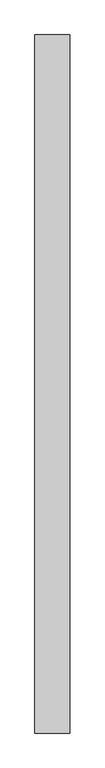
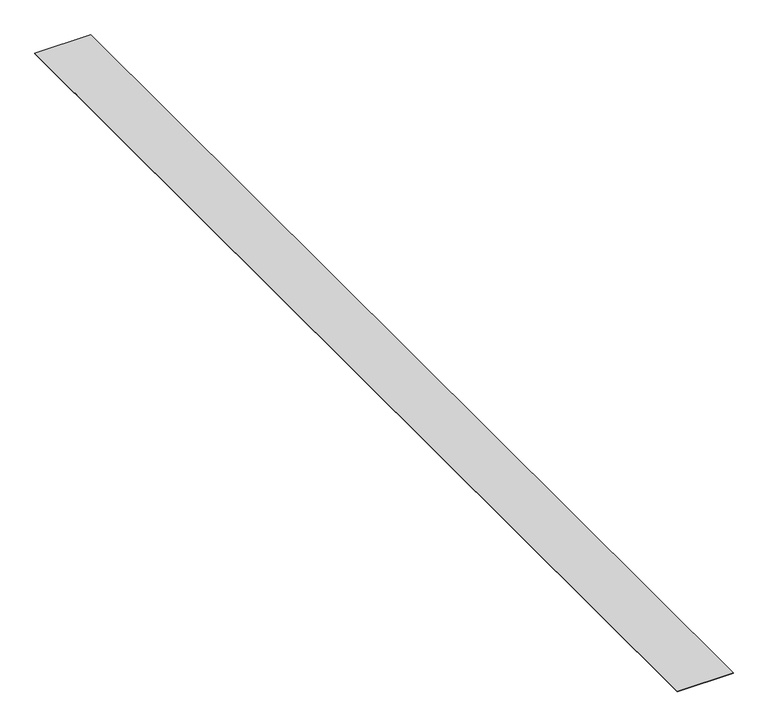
"""IFC4 building model written with IfcOpenShell, lengths in millimetres: proxy geometry, AQUAPANEL Tape (10 cm) : AQUAPANEL Tape (10 cm)."""

from ifc_helpers import new_model, si_unit, origin, origin_with_axes, place, context, project, spatial, polyline, outline, extrude, source, transform, mapped, element, save


def generic_models_bffc2f37(model_context):
    return source(origin(), model_context, "Body", "SweptSolid", [
        extrude(outline(polyline([(17111.4421741, 18350.9190852), (17111.4421741, 16350.9190852), (17011.4421741, 16350.9190852), (17011.4421741, 18350.9190852), (17111.4421741, 18350.9190852)])), origin_with_axes(), (0.0, 0.0, 1.0), 1.0),
    ])


if __name__ == "__main__":
    model = new_model("IFC4")
    model_context = context("Model", 3, world=origin())
    ifc_project = project(units=[si_unit("LENGTHUNIT", "METRE", prefix="MILLI")], contexts=[model_context])
    site = spatial("IfcSite", under=ifc_project)
    building = spatial("IfcBuilding", under=site)
    placement = place(None, origin())
    generic_models_shape = generic_models_bffc2f37(model_context)
    element("IfcBuildingElementProxy", 1, Name="AQUAPANEL Tape (10 cm) : AQUAPANEL Tape (10 cm)", ObjectType="AQUAPANEL Tape (10 cm) : AQUAPANEL Tape (10 cm)", at=placement, inside=building, context=model_context, shape_type="MappedRepresentation", body=[
        mapped(generic_models_shape, transform((0.0, 0.0, 0.0), x_axis=(1.0, 0.0, 0.0), y_axis=(0.0, 1.0, 0.0), z_axis=(0.0, 0.0, 1.0))),
    ])
    save(model, "model.ifc")
